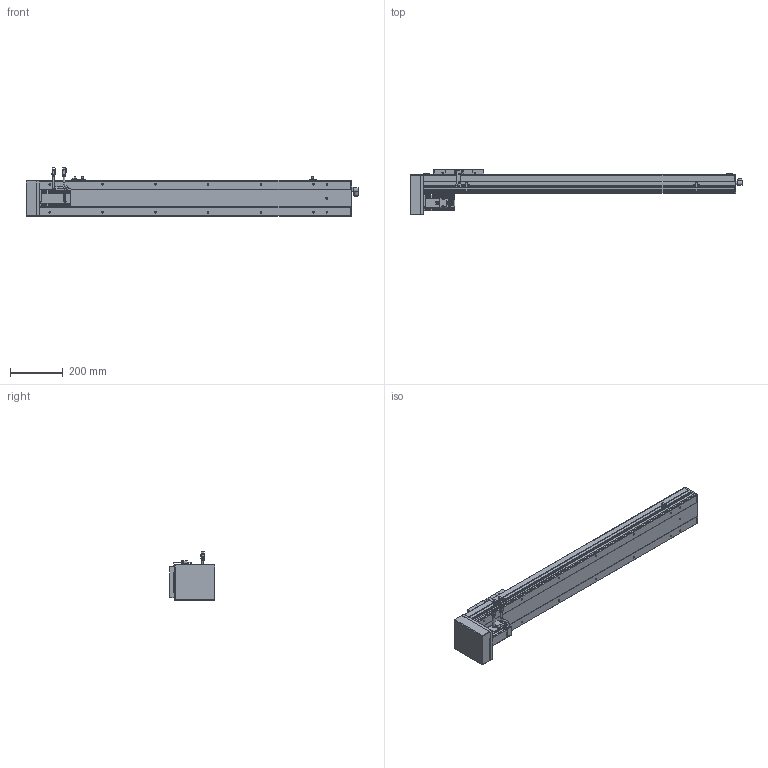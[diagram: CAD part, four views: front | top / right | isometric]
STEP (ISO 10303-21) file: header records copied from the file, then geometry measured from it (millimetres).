
FILE_DESCRIPTION(/* description */ ('STEP AP214'),/* implementation_level */ '2;1');
FILE_NAME(/* name */ 'PSC140-L05-S900-BM-P40-C1-N(0-P)',/* time_stamp */ '2022-06-13T03:21:30+02:00',/* author */ ('License CC BY-ND 4.0'),/* organization */ ('CADENAS'),/* preprocessor_version */ 'ST-DEVELOPER v18.102',/* originating_system */ 'PARTsolutions',/* authorisation */ ' ');
FILE_SCHEMA (('AUTOMOTIVE_DESIGN {1 0 10303 214 3 1 1}'));
Length unit declared in the file: millimetre
Products named in the file (11): PSC140-L05-S900-BM-P40-C1-N(0-P); P40-s2; P40-c2; P40-s1; P40-c1; P40-p1; PSC140-BM-body2; PSC140-sensor; PSC140-BM-SLIDER; PSC140-S900-BM-P40-C1-P_BODY1; PSC140-L05-S900-BM-P40-C1-N(0-P)_dummy
Assembly tree (12 placements, depth 2):
  PSC140-L05-S900-BM-P40-C1-N(0-P)
    P40-s2
    P40-c2
    P40-s1
    P40-c1
    P40-p1
    PSC140-BM-body2
    PSC140-sensor  x3
    PSC140-BM-SLIDER
    PSC140-S900-BM-P40-C1-P_BODY1
    PSC140-L05-S900-BM-P40-C1-N(0-P)_dummy
Bounding box: 1258 x 171.5 x 182.48 mm (x, y, z)
Volume: 13029178.4 mm3; surface area: 751280.2 mm2
Topology: 11 solids, 11 shells, 1244 faces, 3205 edges, 2120 vertices
Faces by surface type: plane 864, cylinder 319, cone 42, torus 19
Full cylindrical faces by diameter (mm): 1 x8, 2.6 x10, 2.8 x3, 3.3 x8, 4.5 x12, 4.6 x3, 4.917 x18, 5 x4, 5.5 x8, 6 x11, 7 x10, 9 x2, 10 x1, 11 x1, 12 x1, 13.74 x1, 14 x1, 16.4 x2, 16.5 x1, 36 x1, 50 x2
Entity records: 34392 total; most frequent: CARTESIAN_POINT 6002, DIRECTION 5789, ORIENTED_EDGE 5574, EDGE_CURVE 2787, LINE 2105, VECTOR 2105, VERTEX_POINT 1940, AXIS2_PLACEMENT_3D 1842
